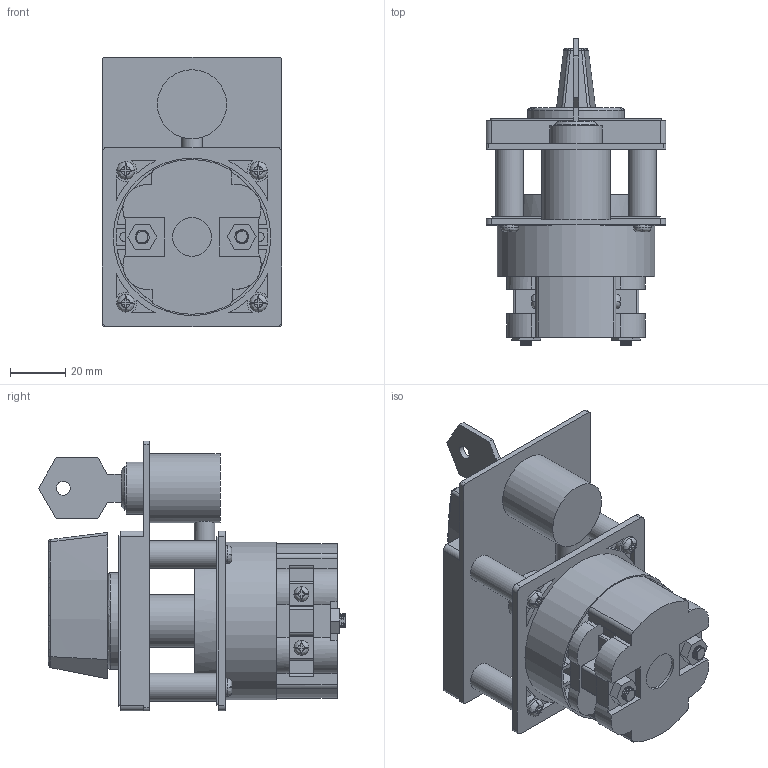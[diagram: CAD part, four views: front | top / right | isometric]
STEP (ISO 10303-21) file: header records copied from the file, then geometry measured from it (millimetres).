
FILE_DESCRIPTION(/* description */ (''),/* implementation_level */ '2;1');
FILE_NAME(/* name */ '4G16,25_S5_1_korpus.stp',/* time_stamp */ '2021-07-21T11:27:33+02:00',/* author */ (''),/* organization */ (''),/* preprocessor_version */ 'ST-DEVELOPER v18.1',/* originating_system */ 'SIEMENS PLM Software NX 1965',/* authorisation */ '');
FILE_SCHEMA (('AUTOMOTIVE_DESIGN { 1 0 10303 214 3 1 1 1 }'));
Products named in the file (1): 4G16,25_S5_1_korpus_stp
Bounding box: 65 x 111.1 x 97.5 mm (x, y, z)
Volume: 206441.1 mm3; surface area: 53083 mm2
Topology: 2 solids, 13 shells, 724 faces, 1989 edges, 1307 vertices
Faces by surface type: plane 393, cylinder 221, bspline 95, cone 12, sphere 2, torus 1
Full cylindrical faces by diameter (mm): 3.3 x2, 4 x4, 4.3 x4, 5 x3, 5.4 x5, 6.4 x4, 6.5 x2, 7.2 x4, 7.5 x1, 10 x5, 14 x1, 15.8 x1, 19 x2, 21.2 x1, 25 x1, 35 x1, 57 x1
Entity records: 68986 total; most frequent: CARTESIAN_POINT 51462, ORIENTED_EDGE 3778, DIRECTION 3198, EDGE_CURVE 1889, VERTEX_POINT 1267, AXIS2_PLACEMENT_3D 1151, LINE 896, VECTOR 896
